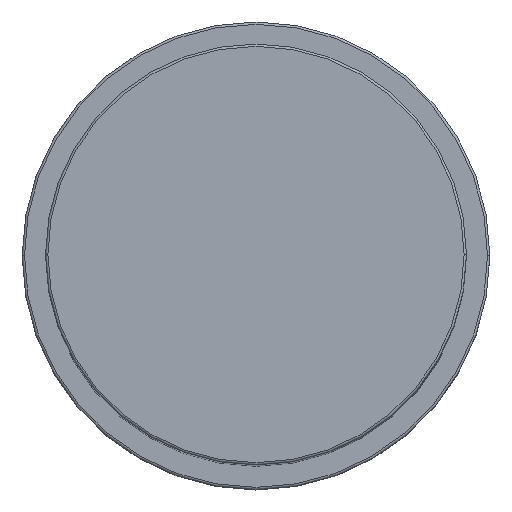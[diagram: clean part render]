
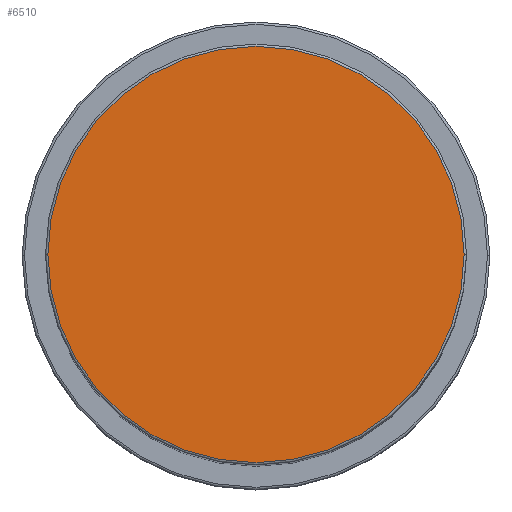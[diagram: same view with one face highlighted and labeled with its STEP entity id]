
A CAD part, top view. The second image highlights one B-rep face of the part: STEP entity #6510.
In plain terms, the highlighted planar face has unit normal (0, 0, 1).
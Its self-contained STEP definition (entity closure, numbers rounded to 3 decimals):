
#30 = VERTEX_POINT ( 'NONE', #6761 ) ;
#289 = DIRECTION ( 'NONE',  ( 1., 0., 0. ) ) ;
#688 = DIRECTION ( 'NONE',  ( 1., 0., 0. ) ) ;
#710 = FACE_OUTER_BOUND ( 'NONE', #4495, .T. ) ;
#753 = CARTESIAN_POINT ( 'NONE',  ( 0., 0., 184. ) ) ;
#1649 = ORIENTED_EDGE ( 'NONE', *, *, #4351, .T. ) ;
#2731 = CIRCLE ( 'NONE', #5971, 44.5 ) ;
#3612 = CARTESIAN_POINT ( 'NONE',  ( -44.5, 0., 184. ) ) ;
#3690 = DIRECTION ( 'NONE',  ( 0., 0., 1. ) ) ;
#4135 = DIRECTION ( 'NONE',  ( 0., 0., 1. ) ) ;
#4183 = AXIS2_PLACEMENT_3D ( 'NONE', #753, #4135, #5906 ) ;
#4209 = EDGE_CURVE ( 'NONE', #4771, #30, #2731, .T. ) ;
#4351 = EDGE_CURVE ( 'NONE', #30, #4771, #6525, .T. ) ;
#4495 = EDGE_LOOP ( 'NONE', ( #1649, #6144 ) ) ;
#4739 = CARTESIAN_POINT ( 'NONE',  ( 0., 0., 184. ) ) ;
#4771 = VERTEX_POINT ( 'NONE', #3612 ) ;
#5354 = PLANE ( 'NONE',  #6995 ) ;
#5726 = DIRECTION ( 'NONE',  ( 0., 0., 1. ) ) ;
#5906 = DIRECTION ( 'NONE',  ( 1., 0., 0. ) ) ;
#5971 = AXIS2_PLACEMENT_3D ( 'NONE', #6266, #5726, #688 ) ;
#6144 = ORIENTED_EDGE ( 'NONE', *, *, #4209, .T. ) ;
#6266 = CARTESIAN_POINT ( 'NONE',  ( 0., 0., 184. ) ) ;
#6510 = ADVANCED_FACE ( 'NONE', ( #710 ), #5354, .T. ) ;
#6525 = CIRCLE ( 'NONE', #4183, 44.5 ) ;
#6761 = CARTESIAN_POINT ( 'NONE',  ( 44.5, 0., 184. ) ) ;
#6995 = AXIS2_PLACEMENT_3D ( 'NONE', #4739, #3690, #289 ) ;
